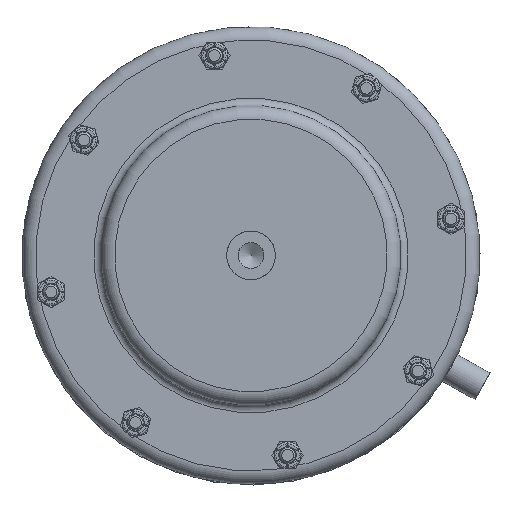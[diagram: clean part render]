
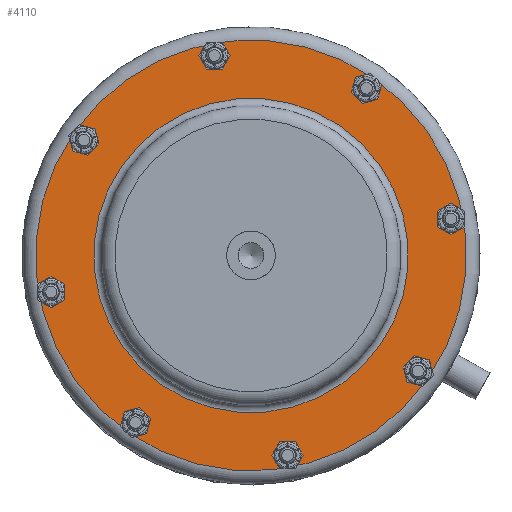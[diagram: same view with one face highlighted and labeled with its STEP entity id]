
A CAD part, top view. The second image highlights one B-rep face of the part: STEP entity #4110.
In plain terms, the highlighted planar face has unit normal (0, 0, 1).
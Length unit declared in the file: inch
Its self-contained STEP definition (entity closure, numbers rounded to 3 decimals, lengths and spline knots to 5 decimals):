
#3763=CARTESIAN_POINT('',(2.46234,2.32454,0.47244));
#3764=VERTEX_POINT('',#3763);
#3765=CARTESIAN_POINT('',(2.32454,2.32454,0.47244));
#3766=DIRECTION('',(0.0,0.0,-1.0));
#3767=DIRECTION('',(1.0,0.0,0.0));
#3768=AXIS2_PLACEMENT_3D('',#3765,#3766,#3767);
#3769=CIRCLE('',#3768,0.1378);
#3770=EDGE_CURVE('',#3764,#3764,#3769,.T.);
#3791=CARTESIAN_POINT('',(3.4252,0.,0.47244));
#3792=VERTEX_POINT('',#3791);
#3793=CARTESIAN_POINT('',(3.2874,0.,0.47244));
#3794=DIRECTION('',(0.0,0.0,-1.0));
#3795=DIRECTION('',(1.0,0.0,0.0));
#3796=AXIS2_PLACEMENT_3D('',#3793,#3794,#3795);
#3797=CIRCLE('',#3796,0.1378);
#3798=EDGE_CURVE('',#3792,#3792,#3797,.T.);
#3819=CARTESIAN_POINT('',(2.46234,-2.32454,0.47244));
#3820=VERTEX_POINT('',#3819);
#3821=CARTESIAN_POINT('',(2.32454,-2.32454,0.47244));
#3822=DIRECTION('',(0.0,0.0,-1.0));
#3823=DIRECTION('',(1.0,0.0,0.0));
#3824=AXIS2_PLACEMENT_3D('',#3821,#3822,#3823);
#3825=CIRCLE('',#3824,0.1378);
#3826=EDGE_CURVE('',#3820,#3820,#3825,.T.);
#3847=CARTESIAN_POINT('',(0.1378,-3.2874,0.47244));
#3848=VERTEX_POINT('',#3847);
#3849=CARTESIAN_POINT('',(0.,-3.2874,0.47244));
#3850=DIRECTION('',(0.0,0.0,-1.0));
#3851=DIRECTION('',(1.0,0.0,0.0));
#3852=AXIS2_PLACEMENT_3D('',#3849,#3850,#3851);
#3853=CIRCLE('',#3852,0.1378);
#3854=EDGE_CURVE('',#3848,#3848,#3853,.T.);
#3875=CARTESIAN_POINT('',(-2.18675,-2.32454,0.47244));
#3876=VERTEX_POINT('',#3875);
#3877=CARTESIAN_POINT('',(-2.32454,-2.32454,0.47244));
#3878=DIRECTION('',(0.0,0.0,-1.0));
#3879=DIRECTION('',(1.0,0.0,0.0));
#3880=AXIS2_PLACEMENT_3D('',#3877,#3878,#3879);
#3881=CIRCLE('',#3880,0.1378);
#3882=EDGE_CURVE('',#3876,#3876,#3881,.T.);
#3903=CARTESIAN_POINT('',(-3.14961,0.,0.47244));
#3904=VERTEX_POINT('',#3903);
#3905=CARTESIAN_POINT('',(-3.2874,0.,0.47244));
#3906=DIRECTION('',(0.0,0.0,-1.0));
#3907=DIRECTION('',(1.0,0.0,0.0));
#3908=AXIS2_PLACEMENT_3D('',#3905,#3906,#3907);
#3909=CIRCLE('',#3908,0.1378);
#3910=EDGE_CURVE('',#3904,#3904,#3909,.T.);
#3931=CARTESIAN_POINT('',(-2.18675,2.32454,0.47244));
#3932=VERTEX_POINT('',#3931);
#3933=CARTESIAN_POINT('',(-2.32454,2.32454,0.47244));
#3934=DIRECTION('',(0.0,0.0,-1.0));
#3935=DIRECTION('',(1.0,0.0,0.0));
#3936=AXIS2_PLACEMENT_3D('',#3933,#3934,#3935);
#3937=CIRCLE('',#3936,0.1378);
#3938=EDGE_CURVE('',#3932,#3932,#3937,.T.);
#3959=CARTESIAN_POINT('',(0.1378,3.2874,0.47244));
#3960=VERTEX_POINT('',#3959);
#3961=CARTESIAN_POINT('',(0.0,3.2874,0.47244));
#3962=DIRECTION('',(0.0,0.0,-1.0));
#3963=DIRECTION('',(1.0,0.0,0.0));
#3964=AXIS2_PLACEMENT_3D('',#3961,#3962,#3963);
#3965=CIRCLE('',#3964,0.1378);
#3966=EDGE_CURVE('',#3960,#3960,#3965,.T.);
#4052=CARTESIAN_POINT('',(0.0,-3.48425,0.47244));
#4053=VERTEX_POINT('',#4052);
#4054=CARTESIAN_POINT('',(0.0,0.0,0.47244));
#4055=DIRECTION('',(0.0,0.0,1.0));
#4056=DIRECTION('',(0.0,-1.0,0.0));
#4057=AXIS2_PLACEMENT_3D('',#4054,#4055,#4056);
#4058=CIRCLE('',#4057,3.48425);
#4059=EDGE_CURVE('',#4053,#4053,#4058,.T.);
#4067=CARTESIAN_POINT('',(0.0,-3.01378,0.47244));
#4068=DIRECTION('',(0.0,0.0,1.0));
#4069=DIRECTION('',(1.0,0.0,0.0));
#4070=AXIS2_PLACEMENT_3D('',#4067,#4068,#4069);
#4071=PLANE('',#4070);
#4072=ORIENTED_EDGE('',*,*,#4059,.T.);
#4073=EDGE_LOOP('',(#4072));
#4074=FACE_OUTER_BOUND('',#4073,.T.);
#4075=ORIENTED_EDGE('',*,*,#3770,.T.);
#4076=EDGE_LOOP('',(#4075));
#4077=FACE_BOUND('',#4076,.T.);
#4078=ORIENTED_EDGE('',*,*,#3798,.T.);
#4079=EDGE_LOOP('',(#4078));
#4080=FACE_BOUND('',#4079,.T.);
#4081=ORIENTED_EDGE('',*,*,#3826,.T.);
#4082=EDGE_LOOP('',(#4081));
#4083=FACE_BOUND('',#4082,.T.);
#4084=ORIENTED_EDGE('',*,*,#3854,.T.);
#4085=EDGE_LOOP('',(#4084));
#4086=FACE_BOUND('',#4085,.T.);
#4087=ORIENTED_EDGE('',*,*,#3882,.T.);
#4088=EDGE_LOOP('',(#4087));
#4089=FACE_BOUND('',#4088,.T.);
#4090=ORIENTED_EDGE('',*,*,#3910,.T.);
#4091=EDGE_LOOP('',(#4090));
#4092=FACE_BOUND('',#4091,.T.);
#4093=ORIENTED_EDGE('',*,*,#3938,.T.);
#4094=EDGE_LOOP('',(#4093));
#4095=FACE_BOUND('',#4094,.T.);
#4096=ORIENTED_EDGE('',*,*,#3966,.T.);
#4097=EDGE_LOOP('',(#4096));
#4098=FACE_BOUND('',#4097,.T.);
#4099=CARTESIAN_POINT('',(0.0,-2.54331,0.47244));
#4100=VERTEX_POINT('',#4099);
#4101=CARTESIAN_POINT('',(0.0,0.0,0.47244));
#4102=DIRECTION('',(0.0,0.0,1.0));
#4103=DIRECTION('',(0.0,-1.0,0.0));
#4104=AXIS2_PLACEMENT_3D('',#4101,#4102,#4103);
#4105=CIRCLE('',#4104,2.54331);
#4106=EDGE_CURVE('',#4100,#4100,#4105,.T.);
#4107=ORIENTED_EDGE('',*,*,#4106,.F.);
#4108=EDGE_LOOP('',(#4107));
#4109=FACE_BOUND('',#4108,.T.);
#4110=ADVANCED_FACE('',(#4074,#4077,#4080,#4083,#4086,#4089,#4092,#4095,#4098,#4109),#4071,.T.);
